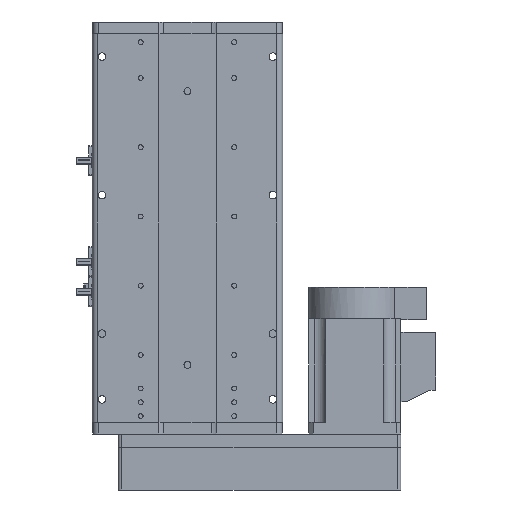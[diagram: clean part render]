
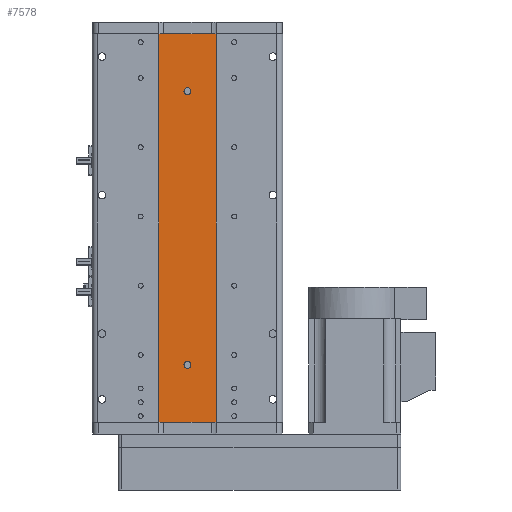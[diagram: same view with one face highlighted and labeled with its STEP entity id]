
A CAD part, front view. The second image highlights one B-rep face of the part: STEP entity #7578.
In plain terms, the highlighted planar face has unit normal (0, -1, 0).
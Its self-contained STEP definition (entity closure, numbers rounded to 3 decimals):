
#161 = CARTESIAN_POINT ( 'NONE',  ( 25., 1., 168.5 ) ) ;
#1405 = AXIS2_PLACEMENT_3D ( 'NONE', #5829, #36684, #10301 ) ;
#1726 = CARTESIAN_POINT ( 'NONE',  ( 0., 1., -121.5 ) ) ;
#1779 = ORIENTED_EDGE ( 'NONE', *, *, #3617, .F. ) ;
#1895 = DIRECTION ( 'NONE',  ( 1., 0., 0. ) ) ;
#2454 = DIRECTION ( 'NONE',  ( 0., -1., 0. ) ) ;
#3132 = DIRECTION ( 'NONE',  ( 0., 0., -1. ) ) ;
#3372 = EDGE_LOOP ( 'NONE', ( #8671, #6134, #46960, #16387 ) ) ;
#3617 = EDGE_CURVE ( 'NONE', #48678, #10149, #21455, .T. ) ;
#5328 = PLANE ( 'NONE',  #5852 ) ;
#5829 = CARTESIAN_POINT ( 'NONE',  ( 0., 1., -118.5 ) ) ;
#5852 = AXIS2_PLACEMENT_3D ( 'NONE', #22922, #14220, #45056 ) ;
#6080 = EDGE_LOOP ( 'NONE', ( #1779, #25482 ) ) ;
#6134 = ORIENTED_EDGE ( 'NONE', *, *, #6320, .F. ) ;
#6206 = EDGE_CURVE ( 'NONE', #52882, #36411, #31539, .T. ) ;
#6320 = EDGE_CURVE ( 'NONE', #32577, #36411, #12856, .T. ) ;
#7578 = ADVANCED_FACE ( 'NONE', ( #24433, #47806, #23041 ), #5328, .F. ) ;
#8589 = CIRCLE ( 'NONE', #26511, 3. ) ;
#8671 = ORIENTED_EDGE ( 'NONE', *, *, #6206, .T. ) ;
#9755 = CARTESIAN_POINT ( 'NONE',  ( 0., 1., -118.5 ) ) ;
#10149 = VERTEX_POINT ( 'NONE', #52350 ) ;
#10301 = DIRECTION ( 'NONE',  ( 0., 0., -1. ) ) ;
#10784 = AXIS2_PLACEMENT_3D ( 'NONE', #28925, #2454, #33367 ) ;
#10991 = CARTESIAN_POINT ( 'NONE',  ( 0., 1., -115.5 ) ) ;
#11006 = CARTESIAN_POINT ( 'NONE',  ( -25., 1., -168.5 ) ) ;
#11466 = VECTOR ( 'NONE', #51228, 1000. ) ;
#12856 = LINE ( 'NONE', #46795, #11466 ) ;
#13227 = CARTESIAN_POINT ( 'NONE',  ( 0., 1., 115.5 ) ) ;
#14016 = VERTEX_POINT ( 'NONE', #10991 ) ;
#14186 = DIRECTION ( 'NONE',  ( 0., 0., -1. ) ) ;
#14220 = DIRECTION ( 'NONE',  ( 0., 1., 0. ) ) ;
#15030 = CARTESIAN_POINT ( 'NONE',  ( 25., 1., -168.5 ) ) ;
#15274 = CIRCLE ( 'NONE', #31702, 3. ) ;
#16387 = ORIENTED_EDGE ( 'NONE', *, *, #19834, .T. ) ;
#19367 = CARTESIAN_POINT ( 'NONE',  ( 0., 1., 118.5 ) ) ;
#19834 = EDGE_CURVE ( 'NONE', #20098, #52882, #54394, .T. ) ;
#20098 = VERTEX_POINT ( 'NONE', #39812 ) ;
#20725 = CARTESIAN_POINT ( 'NONE',  ( -25., 1., 168.5 ) ) ;
#21157 = VECTOR ( 'NONE', #1895, 1000. ) ;
#21455 = CIRCLE ( 'NONE', #10784, 3. ) ;
#22653 = EDGE_CURVE ( 'NONE', #10149, #48678, #8589, .T. ) ;
#22907 = EDGE_LOOP ( 'NONE', ( #33408, #36497 ) ) ;
#22922 = CARTESIAN_POINT ( 'NONE',  ( 25., 1., 168.5 ) ) ;
#23041 = FACE_OUTER_BOUND ( 'NONE', #3372, .T. ) ;
#23843 = DIRECTION ( 'NONE',  ( 0., 0., -1. ) ) ;
#24433 = FACE_BOUND ( 'NONE', #22907, .T. ) ;
#25482 = ORIENTED_EDGE ( 'NONE', *, *, #22653, .F. ) ;
#26511 = AXIS2_PLACEMENT_3D ( 'NONE', #19367, #50181, #23843 ) ;
#27675 = CARTESIAN_POINT ( 'NONE',  ( 25., 1., 168.5 ) ) ;
#28925 = CARTESIAN_POINT ( 'NONE',  ( 0., 1., 118.5 ) ) ;
#31539 = LINE ( 'NONE', #15030, #21157 ) ;
#31702 = AXIS2_PLACEMENT_3D ( 'NONE', #9755, #40574, #14186 ) ;
#32577 = VERTEX_POINT ( 'NONE', #161 ) ;
#33367 = DIRECTION ( 'NONE',  ( 0., 0., -1. ) ) ;
#33408 = ORIENTED_EDGE ( 'NONE', *, *, #55222, .F. ) ;
#33841 = CARTESIAN_POINT ( 'NONE',  ( 25., 1., -168.5 ) ) ;
#33849 = EDGE_CURVE ( 'NONE', #14016, #36850, #15274, .T. ) ;
#36411 = VERTEX_POINT ( 'NONE', #33841 ) ;
#36492 = DIRECTION ( 'NONE',  ( 1., 0., 0. ) ) ;
#36497 = ORIENTED_EDGE ( 'NONE', *, *, #33849, .F. ) ;
#36684 = DIRECTION ( 'NONE',  ( 0., -1., 0. ) ) ;
#36850 = VERTEX_POINT ( 'NONE', #1726 ) ;
#36916 = CIRCLE ( 'NONE', #1405, 3. ) ;
#39812 = CARTESIAN_POINT ( 'NONE',  ( -25., 1., 168.5 ) ) ;
#40574 = DIRECTION ( 'NONE',  ( 0., -1., 0. ) ) ;
#42678 = VECTOR ( 'NONE', #3132, 1000. ) ;
#43532 = VECTOR ( 'NONE', #36492, 1000. ) ;
#44520 = EDGE_CURVE ( 'NONE', #20098, #32577, #46287, .T. ) ;
#45056 = DIRECTION ( 'NONE',  ( 0., 0., 1. ) ) ;
#46287 = LINE ( 'NONE', #27675, #43532 ) ;
#46795 = CARTESIAN_POINT ( 'NONE',  ( 25., 1., 168.5 ) ) ;
#46960 = ORIENTED_EDGE ( 'NONE', *, *, #44520, .F. ) ;
#47806 = FACE_BOUND ( 'NONE', #6080, .T. ) ;
#48678 = VERTEX_POINT ( 'NONE', #13227 ) ;
#50181 = DIRECTION ( 'NONE',  ( 0., -1., 0. ) ) ;
#51228 = DIRECTION ( 'NONE',  ( 0., 0., -1. ) ) ;
#52350 = CARTESIAN_POINT ( 'NONE',  ( 0., 1., 121.5 ) ) ;
#52882 = VERTEX_POINT ( 'NONE', #11006 ) ;
#54394 = LINE ( 'NONE', #20725, #42678 ) ;
#55222 = EDGE_CURVE ( 'NONE', #36850, #14016, #36916, .T. ) ;
